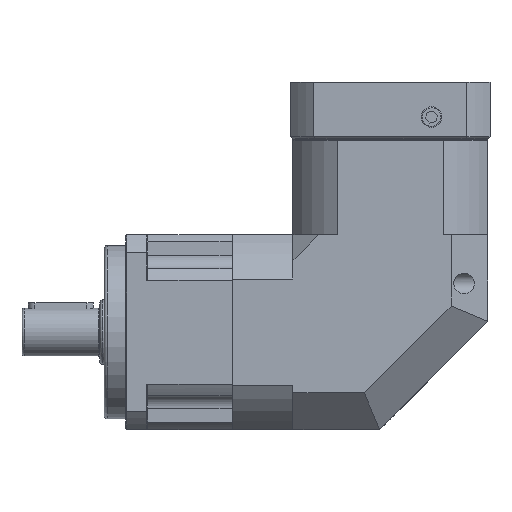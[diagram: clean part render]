
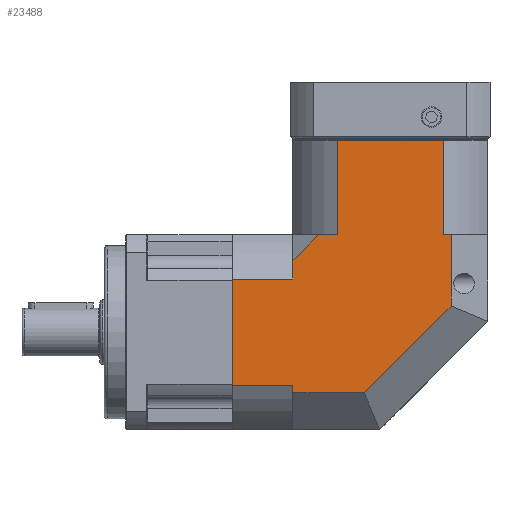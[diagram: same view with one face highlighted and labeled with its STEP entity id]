
A CAD part, left-side view. The second image highlights one B-rep face of the part: STEP entity #23488.
In plain terms, the highlighted planar face has unit normal (-1, 0, 0).
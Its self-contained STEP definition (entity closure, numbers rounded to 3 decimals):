
#22991=CARTESIAN_POINT('',(-45.,33.,45.));
#22992=VERTEX_POINT('',#22991);
#22999=CARTESIAN_POINT('',(-45.0,24.527,45.));
#23000=VERTEX_POINT('',#22999);
#23001=CARTESIAN_POINT('',(-45.0,24.527,45.));
#23002=DIRECTION('',(0.0,1.0,0.0));
#23003=VECTOR('',#23002,8.473);
#23004=LINE('',#23001,#23003);
#23005=EDGE_CURVE('',#23000,#22992,#23004,.T.);
#23022=CARTESIAN_POINT('',(-45.0,45.0,24.527));
#23023=VERTEX_POINT('',#23022);
#23024=CARTESIAN_POINT('',(-45.0,45.0,33.));
#23025=VERTEX_POINT('',#23024);
#23026=CARTESIAN_POINT('',(-45.0,45.0,24.527));
#23027=DIRECTION('',(0.0,0.0,1.0));
#23028=VECTOR('',#23027,8.473);
#23029=LINE('',#23026,#23028);
#23030=EDGE_CURVE('',#23023,#23025,#23029,.T.);
#23387=CARTESIAN_POINT('',(-45.0,-45.0,88.8));
#23388=DIRECTION('',(1.0,0.0,0.0));
#23389=DIRECTION('',(0.0,0.0,-1.0));
#23390=AXIS2_PLACEMENT_3D('',#23387,#23388,#23389);
#23391=PLANE('',#23390);
#23392=CARTESIAN_POINT('',(-45.0,-24.527,45.));
#23393=VERTEX_POINT('',#23392);
#23394=CARTESIAN_POINT('',(-45.0,-24.527,88.5));
#23395=VERTEX_POINT('',#23394);
#23396=CARTESIAN_POINT('',(-45.0,-24.527,45.));
#23397=DIRECTION('',(0.0,0.0,1.0));
#23398=VECTOR('',#23397,43.5);
#23399=LINE('',#23396,#23398);
#23400=EDGE_CURVE('',#23393,#23395,#23399,.T.);
#23401=ORIENTED_EDGE('',*,*,#23400,.T.);
#23402=CARTESIAN_POINT('',(-45.0,24.527,88.5));
#23403=VERTEX_POINT('',#23402);
#23404=CARTESIAN_POINT('',(-45.0,-24.527,88.5));
#23405=DIRECTION('',(0.0,1.0,0.0));
#23406=VECTOR('',#23405,49.054);
#23407=LINE('',#23404,#23406);
#23408=EDGE_CURVE('',#23395,#23403,#23407,.T.);
#23409=ORIENTED_EDGE('',*,*,#23408,.T.);
#23410=CARTESIAN_POINT('',(-45.0,24.527,45.));
#23411=DIRECTION('',(0.0,0.0,1.0));
#23412=VECTOR('',#23411,43.5);
#23413=LINE('',#23410,#23412);
#23414=EDGE_CURVE('',#23000,#23403,#23413,.T.);
#23415=ORIENTED_EDGE('',*,*,#23414,.F.);
#23416=ORIENTED_EDGE('',*,*,#23005,.T.);
#23417=CARTESIAN_POINT('',(-45.0,45.,33.));
#23418=DIRECTION('',(0.0,-0.707,0.707));
#23419=VECTOR('',#23418,16.971);
#23420=LINE('',#23417,#23419);
#23421=EDGE_CURVE('',#23025,#22992,#23420,.T.);
#23422=ORIENTED_EDGE('',*,*,#23421,.F.);
#23423=ORIENTED_EDGE('',*,*,#23030,.F.);
#23424=CARTESIAN_POINT('',(-45.0,72.8,24.527));
#23425=VERTEX_POINT('',#23424);
#23426=CARTESIAN_POINT('',(-45.0,45.0,24.527));
#23427=DIRECTION('',(0.0,1.0,0.0));
#23428=VECTOR('',#23427,27.8);
#23429=LINE('',#23426,#23428);
#23430=EDGE_CURVE('',#23023,#23425,#23429,.T.);
#23431=ORIENTED_EDGE('',*,*,#23430,.T.);
#23432=CARTESIAN_POINT('',(-45.0,72.8,-24.527));
#23433=VERTEX_POINT('',#23432);
#23434=CARTESIAN_POINT('',(-45.0,72.8,24.527));
#23435=DIRECTION('',(0.0,0.0,-1.0));
#23436=VECTOR('',#23435,49.054);
#23437=LINE('',#23434,#23436);
#23438=EDGE_CURVE('',#23425,#23433,#23437,.T.);
#23439=ORIENTED_EDGE('',*,*,#23438,.T.);
#23440=CARTESIAN_POINT('',(-45.0,45.0,-24.527));
#23441=VERTEX_POINT('',#23440);
#23442=CARTESIAN_POINT('',(-45.0,45.0,-24.527));
#23443=DIRECTION('',(0.0,1.0,0.0));
#23444=VECTOR('',#23443,27.8);
#23445=LINE('',#23442,#23444);
#23446=EDGE_CURVE('',#23441,#23433,#23445,.T.);
#23447=ORIENTED_EDGE('',*,*,#23446,.F.);
#23448=CARTESIAN_POINT('',(-45.,45.0,-28.));
#23449=VERTEX_POINT('',#23448);
#23450=CARTESIAN_POINT('',(-45.0,45.0,-24.527));
#23451=DIRECTION('',(0.0,0.0,-1.0));
#23452=VECTOR('',#23451,3.473);
#23453=LINE('',#23450,#23452);
#23454=EDGE_CURVE('',#23441,#23449,#23453,.T.);
#23455=ORIENTED_EDGE('',*,*,#23454,.T.);
#23456=CARTESIAN_POINT('',(-45.0,12.042,-28.));
#23457=VERTEX_POINT('',#23456);
#23458=CARTESIAN_POINT('',(-45.0,45.0,-28.));
#23459=DIRECTION('',(0.0,-1.0,0.0));
#23460=VECTOR('',#23459,32.958);
#23461=LINE('',#23458,#23460);
#23462=EDGE_CURVE('',#23449,#23457,#23461,.T.);
#23463=ORIENTED_EDGE('',*,*,#23462,.T.);
#23464=CARTESIAN_POINT('',(-45.0,-28.,12.042));
#23465=VERTEX_POINT('',#23464);
#23466=CARTESIAN_POINT('',(-45.0,12.042,-28.));
#23467=DIRECTION('',(0.0,-0.707,0.707));
#23468=VECTOR('',#23467,56.627);
#23469=LINE('',#23466,#23468);
#23470=EDGE_CURVE('',#23457,#23465,#23469,.T.);
#23471=ORIENTED_EDGE('',*,*,#23470,.T.);
#23472=CARTESIAN_POINT('',(-45.0,-28.,45.));
#23473=VERTEX_POINT('',#23472);
#23474=CARTESIAN_POINT('',(-45.0,-28.,12.042));
#23475=DIRECTION('',(0.0,0.0,1.0));
#23476=VECTOR('',#23475,32.958);
#23477=LINE('',#23474,#23476);
#23478=EDGE_CURVE('',#23465,#23473,#23477,.T.);
#23479=ORIENTED_EDGE('',*,*,#23478,.T.);
#23480=CARTESIAN_POINT('',(-45.0,-28.,45.));
#23481=DIRECTION('',(0.0,1.0,0.0));
#23482=VECTOR('',#23481,3.473);
#23483=LINE('',#23480,#23482);
#23484=EDGE_CURVE('',#23473,#23393,#23483,.T.);
#23485=ORIENTED_EDGE('',*,*,#23484,.T.);
#23486=EDGE_LOOP('',(#23401,#23409,#23415,#23416,#23422,#23423,#23431,#23439,#23447,#23455,#23463,#23471,#23479,#23485));
#23487=FACE_OUTER_BOUND('',#23486,.T.);
#23488=ADVANCED_FACE('',(#23487),#23391,.F.);
